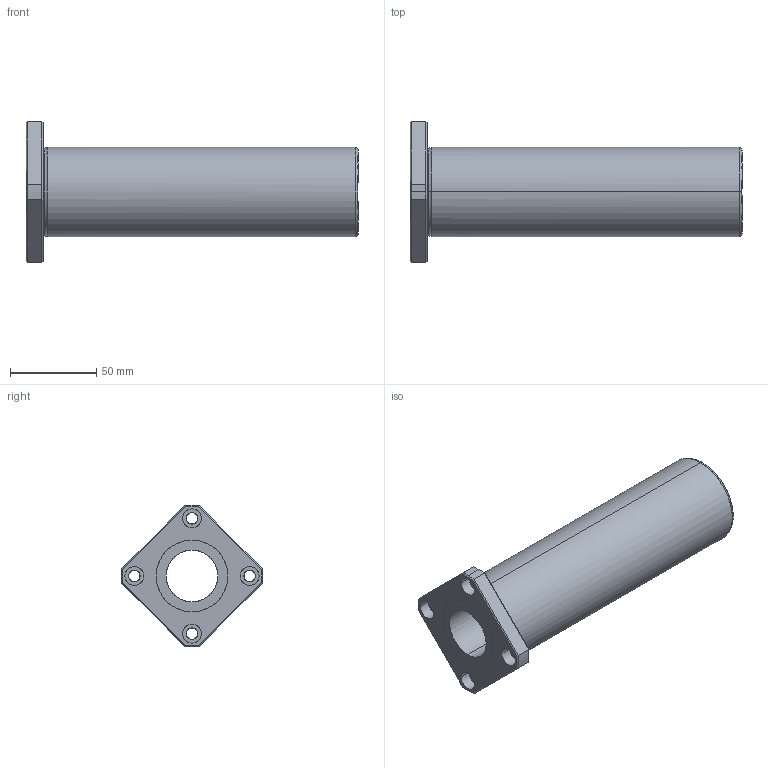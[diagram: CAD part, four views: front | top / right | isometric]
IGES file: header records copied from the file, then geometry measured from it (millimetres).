
Global section: file name: No Iges File Name specified; native system: AutoDesk Inventor R10; preprocessor: AutoDesk Inventor Iges Exporter R10; author: No Author specified; organization: No Organization specified; date: 20101216.172751; units: millimetre
Bounding box: 193 x 81.99 x 82 mm (x, y, z)
Surface area: 57821.2 mm2 (no closed solid volume)
Topology: 0 solids, 0 shells, 69 faces, 416 edges, 416 vertices
Faces by surface type: bspline 69
